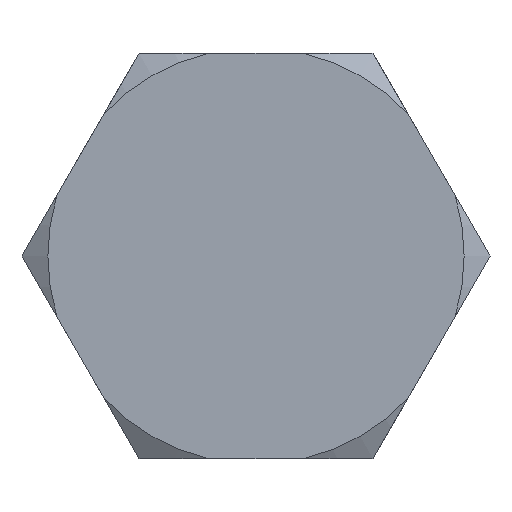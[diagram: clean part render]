
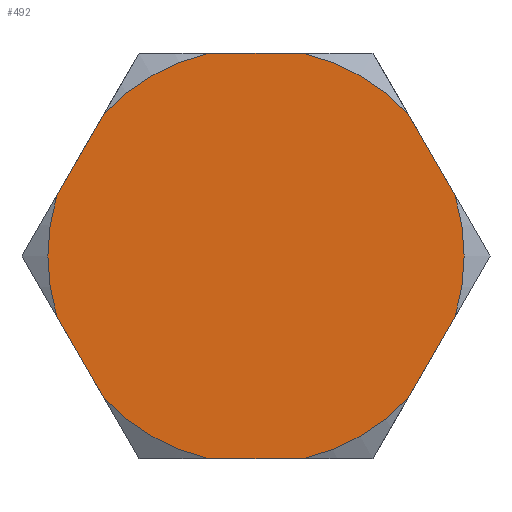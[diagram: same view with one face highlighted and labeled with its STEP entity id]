
A CAD part, front view. The second image highlights one B-rep face of the part: STEP entity #492.
In plain terms, the highlighted planar face has unit normal (0, -1, 0).
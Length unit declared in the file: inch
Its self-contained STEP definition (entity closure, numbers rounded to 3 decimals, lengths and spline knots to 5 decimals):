
#28=PLANE('',#554);
#81=FACE_OUTER_BOUND('',#110,.T.);
#110=EDGE_LOOP('',(#429,#430,#431,#432,#433,#434,#435,#436,#437,#438,#439,
#440));
#129=LINE('',#810,#152);
#133=LINE('',#830,#156);
#135=LINE('',#870,#158);
#138=LINE('',#889,#161);
#140=LINE('',#905,#163);
#142=LINE('',#923,#165);
#152=VECTOR('',#614,0.3937);
#156=VECTOR('',#620,0.3937);
#158=VECTOR('',#656,0.3937);
#161=VECTOR('',#661,0.3937);
#163=VECTOR('',#665,0.3937);
#165=VECTOR('',#669,0.3937);
#188=CIRCLE('',#555,0.64188);
#189=CIRCLE('',#556,0.64188);
#190=CIRCLE('',#557,0.64188);
#191=CIRCLE('',#558,0.64188);
#192=CIRCLE('',#559,0.64188);
#193=CIRCLE('',#560,0.64188);
#211=VERTEX_POINT('',#805);
#212=VERTEX_POINT('',#809);
#217=VERTEX_POINT('',#825);
#218=VERTEX_POINT('',#829);
#229=VERTEX_POINT('',#865);
#230=VERTEX_POINT('',#869);
#235=VERTEX_POINT('',#884);
#236=VERTEX_POINT('',#888);
#239=VERTEX_POINT('',#900);
#240=VERTEX_POINT('',#904);
#242=VERTEX_POINT('',#918);
#243=VERTEX_POINT('',#922);
#269=EDGE_CURVE('',#212,#211,#129,.T.);
#276=EDGE_CURVE('',#218,#217,#133,.T.);
#292=EDGE_CURVE('',#230,#229,#135,.T.);
#298=EDGE_CURVE('',#236,#235,#138,.T.);
#303=EDGE_CURVE('',#240,#239,#140,.T.);
#309=EDGE_CURVE('',#243,#242,#142,.T.);
#312=EDGE_CURVE('',#243,#217,#188,.T.);
#313=EDGE_CURVE('',#236,#242,#189,.T.);
#314=EDGE_CURVE('',#240,#235,#190,.T.);
#315=EDGE_CURVE('',#230,#239,#191,.T.);
#316=EDGE_CURVE('',#212,#229,#192,.T.);
#317=EDGE_CURVE('',#218,#211,#193,.T.);
#429=ORIENTED_EDGE('',*,*,#276,.T.);
#430=ORIENTED_EDGE('',*,*,#312,.F.);
#431=ORIENTED_EDGE('',*,*,#309,.T.);
#432=ORIENTED_EDGE('',*,*,#313,.F.);
#433=ORIENTED_EDGE('',*,*,#298,.T.);
#434=ORIENTED_EDGE('',*,*,#314,.F.);
#435=ORIENTED_EDGE('',*,*,#303,.T.);
#436=ORIENTED_EDGE('',*,*,#315,.F.);
#437=ORIENTED_EDGE('',*,*,#292,.T.);
#438=ORIENTED_EDGE('',*,*,#316,.F.);
#439=ORIENTED_EDGE('',*,*,#269,.T.);
#440=ORIENTED_EDGE('',*,*,#317,.F.);
#492=ADVANCED_FACE('',(#81),#28,.T.);
#554=AXIS2_PLACEMENT_3D('',#931,#672,#673);
#555=AXIS2_PLACEMENT_3D('',#932,#674,#675);
#556=AXIS2_PLACEMENT_3D('',#933,#676,#677);
#557=AXIS2_PLACEMENT_3D('',#934,#678,#679);
#558=AXIS2_PLACEMENT_3D('',#935,#680,#681);
#559=AXIS2_PLACEMENT_3D('',#936,#682,#683);
#560=AXIS2_PLACEMENT_3D('',#937,#684,#685);
#614=DIRECTION('',(-0.5,0.,0.866));
#620=DIRECTION('',(-1.,0.,0.));
#656=DIRECTION('',(0.5,0.,0.866));
#661=DIRECTION('',(0.5,0.,-0.866));
#665=DIRECTION('',(1.,0.,0.));
#669=DIRECTION('',(-0.5,0.,-0.866));
#672=DIRECTION('center_axis',(0.,-1.,0.));
#673=DIRECTION('ref_axis',(0.,0.,-1.));
#674=DIRECTION('center_axis',(0.,1.,0.));
#675=DIRECTION('ref_axis',(0.,0.,1.));
#676=DIRECTION('center_axis',(0.,1.,0.));
#677=DIRECTION('ref_axis',(0.,0.,1.));
#678=DIRECTION('center_axis',(0.,1.,0.));
#679=DIRECTION('ref_axis',(0.,0.,1.));
#680=DIRECTION('center_axis',(0.,1.,0.));
#681=DIRECTION('ref_axis',(0.,0.,1.));
#682=DIRECTION('center_axis',(0.,1.,0.));
#683=DIRECTION('ref_axis',(0.,0.,1.));
#684=DIRECTION('center_axis',(0.,1.,0.));
#685=DIRECTION('ref_axis',(0.,0.,1.));
#805=CARTESIAN_POINT('',(0.46816,0.,0.43912));
#809=CARTESIAN_POINT('',(0.61437,0.,0.18588));
#810=CARTESIAN_POINT('',(0.63148,0.,0.15625));
#825=CARTESIAN_POINT('',(-0.14621,0.,0.625));
#829=CARTESIAN_POINT('',(0.14621,0.,0.625));
#830=CARTESIAN_POINT('',(0.18042,0.,0.625));
#865=CARTESIAN_POINT('',(0.61437,0.,-0.18588));
#869=CARTESIAN_POINT('',(0.46816,0.,-0.43912));
#870=CARTESIAN_POINT('',(0.45105,0.,-0.46875));
#884=CARTESIAN_POINT('',(-0.46816,0.,-0.43912));
#888=CARTESIAN_POINT('',(-0.61437,0.,-0.18588));
#889=CARTESIAN_POINT('',(-0.63148,0.,-0.15625));
#900=CARTESIAN_POINT('',(0.14621,0.,-0.625));
#904=CARTESIAN_POINT('',(-0.14621,0.,-0.625));
#905=CARTESIAN_POINT('',(-0.18042,0.,-0.625));
#918=CARTESIAN_POINT('',(-0.61437,0.,0.18588));
#922=CARTESIAN_POINT('',(-0.46816,0.,0.43912));
#923=CARTESIAN_POINT('',(-0.45105,0.,0.46875));
#931=CARTESIAN_POINT('Origin',(0.,0.,0.));
#932=CARTESIAN_POINT('Origin',(0.,0.,0.));
#933=CARTESIAN_POINT('Origin',(0.,0.,0.));
#934=CARTESIAN_POINT('Origin',(0.,0.,0.));
#935=CARTESIAN_POINT('Origin',(0.,0.,0.));
#936=CARTESIAN_POINT('Origin',(0.,0.,0.));
#937=CARTESIAN_POINT('Origin',(0.,0.,0.));
